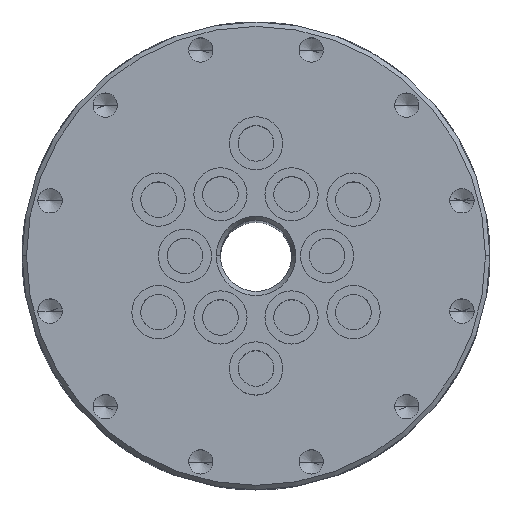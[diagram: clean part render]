
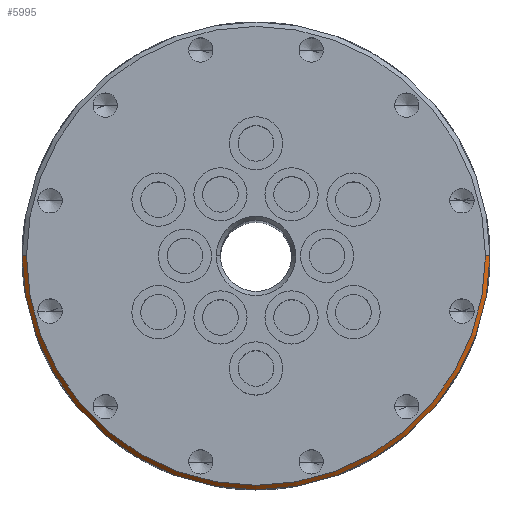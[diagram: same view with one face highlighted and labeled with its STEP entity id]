
A CAD part, top view. The second image highlights one B-rep face of the part: STEP entity #5995.
In plain terms, the highlighted conical face has half-angle 45 degrees and reference radius 61.506 mm.
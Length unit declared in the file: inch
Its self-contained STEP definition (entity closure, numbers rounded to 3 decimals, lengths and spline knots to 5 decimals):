
#142 = EDGE_CURVE ( 'NONE', #3430, #3431, #12006, .T. ) ;
#235 = EDGE_CURVE ( 'NONE', #3424, #3423, #12269, .T. ) ;
#247 = EDGE_CURVE ( 'NONE', #3431, #3424, #11098, .T. ) ;
#3423 = VERTEX_POINT ( 'NONE', #19962 ) ;
#3424 = VERTEX_POINT ( 'NONE', #19963 ) ;
#3430 = VERTEX_POINT ( 'NONE', #19969 ) ;
#3431 = VERTEX_POINT ( 'NONE', #19970 ) ;
#3707 = VECTOR ( 'NONE', #8150, 39.37008 ) ;
#5995 = ADVANCED_FACE ( 'NONE', ( #9817 ), #13151, .T. ) ;
#6648 = CARTESIAN_POINT ( 'NONE',  ( 0., 0., 0. ) ) ;
#6649 = DIRECTION ( 'NONE',  ( 0., 0., 1. ) ) ;
#6650 = DIRECTION ( 'NONE',  ( -1., 0., 0. ) ) ;
#8099 = LINE ( 'NONE', #8105, #3707 ) ;
#8105 = CARTESIAN_POINT ( 'NONE',  ( -2.4215, 0., 0. ) ) ;
#8150 = DIRECTION ( 'NONE',  ( -0.707, 0., -0.707 ) ) ;
#8625 = EDGE_LOOP ( 'NONE', ( #14124, #14125, #14126, #14127 ) ) ;
#9804 = CARTESIAN_POINT ( 'NONE',  ( 0., 0., 0. ) ) ;
#9812 = DIRECTION ( 'NONE',  ( -1., 0., 0. ) ) ;
#9817 = FACE_OUTER_BOUND ( 'NONE', #8625, .T. ) ;
#9820 = DIRECTION ( 'NONE',  ( 0., 0., -1. ) ) ;
#10985 = CARTESIAN_POINT ( 'NONE',  ( 0., 0., -0.047 ) ) ;
#10986 = DIRECTION ( 'NONE',  ( 0., 0., -1. ) ) ;
#10987 = DIRECTION ( 'NONE',  ( -1., 0., 0. ) ) ;
#11098 = LINE ( 'NONE', #11140, #12690 ) ;
#11140 = CARTESIAN_POINT ( 'NONE',  ( 2.4215, 0., 0. ) ) ;
#11177 = DIRECTION ( 'NONE',  ( 0.707, 0., -0.707 ) ) ;
#12006 = CIRCLE ( 'NONE', #12020, 2.4215 ) ;
#12020 = AXIS2_PLACEMENT_3D ( 'NONE', #6648, #6649, #6650 ) ;
#12269 = CIRCLE ( 'NONE', #12680, 2.4685 ) ;
#12680 = AXIS2_PLACEMENT_3D ( 'NONE', #10985, #10986, #10987 ) ;
#12690 = VECTOR ( 'NONE', #11177, 39.37008 ) ;
#12889 = AXIS2_PLACEMENT_3D ( 'NONE', #9804, #9820, #9812 ) ;
#13151 = CONICAL_SURFACE ( 'NONE', #12889, 2.4215, 0.785 ) ;
#13187 = EDGE_CURVE ( 'NONE', #3430, #3423, #8099, .T. ) ;
#14124 = ORIENTED_EDGE ( 'NONE', *, *, #247, .F. ) ;
#14125 = ORIENTED_EDGE ( 'NONE', *, *, #142, .F. ) ;
#14126 = ORIENTED_EDGE ( 'NONE', *, *, #13187, .T. ) ;
#14127 = ORIENTED_EDGE ( 'NONE', *, *, #235, .F. ) ;
#19962 = CARTESIAN_POINT ( 'NONE',  ( -2.4685, 0., -0.047 ) ) ;
#19963 = CARTESIAN_POINT ( 'NONE',  ( 2.4685, 0., -0.047 ) ) ;
#19969 = CARTESIAN_POINT ( 'NONE',  ( -2.4215, 0., 0. ) ) ;
#19970 = CARTESIAN_POINT ( 'NONE',  ( 2.4215, 0., 0. ) ) ;
